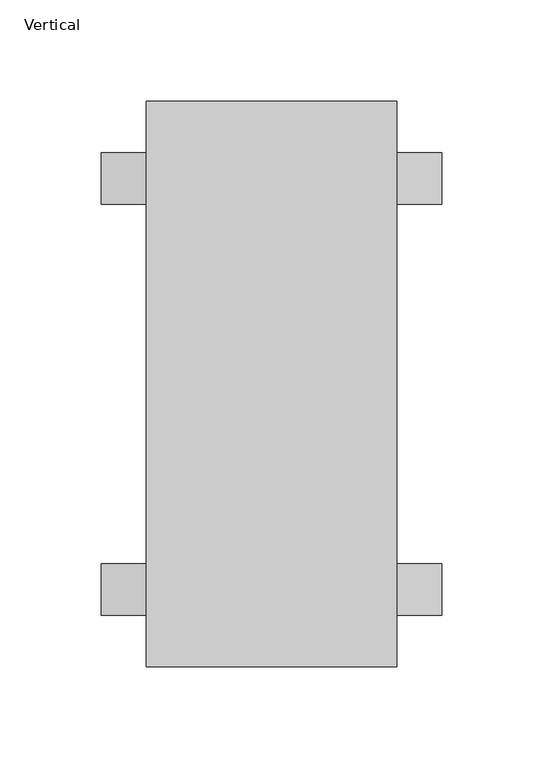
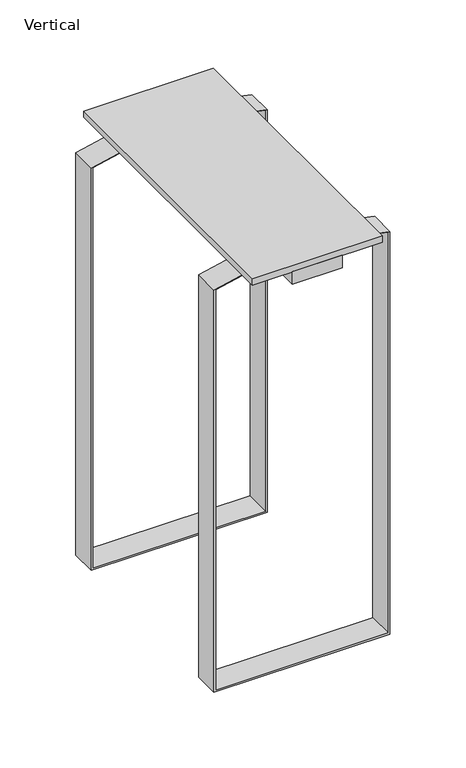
"""IFC4 building model written with IfcOpenShell, lengths in millimetres: furniture geometry, HermanMiller_ThrivePortfolio_Y7813_CPUHolder : Vertical."""

from ifc_helpers import new_model, si_unit, frame, origin, place, context, project, spatial, polyline, outline, extrude, source, transform, mapped, element, save


def vertical_a4187a12(model_context):
    return source(origin(), model_context, "Body", "SweptSolid", [
        extrude(outline(polyline([(23.8125, -139.7), (-23.8125, -139.7), (-23.8125, 139.7), (23.8125, 139.7), (23.8125, -139.7)])), frame((0.0, 0.0, 685.8), z_axis=(0.0, 0.0, 1.0), x_axis=(1.0, 0.0, 0.0)), (0.0, 0.0, 1.0), 12.7),
        extrude(outline(polyline([(61.9125, 139.7), (61.9125, -139.7), (-61.9125, -139.7), (-61.9125, 139.7), (61.9125, 139.7)])), frame((0.0, 0.0, 698.5), z_axis=(0.0, 0.0, 1.0), x_axis=(1.0, 0.0, 0.0)), (0.0, 0.0, 1.0), 6.35),
        extrude(outline(polyline([(279.4, -84.1375), (279.4, 84.1375), (685.8, 84.1375), (698.5, 25.4), (698.5, 23.8125), (685.8, 82.55), (280.9875, 82.55), (280.9875, -82.55), (685.8, -82.55), (698.5, -23.8125), (698.5, -25.4), (685.8, -84.1375), (279.4, -84.1375)])), frame((0.0, 88.9, 0.0), z_axis=(0.0, 1.0, 0.0), x_axis=(0.0, 0.0, 1.0)), (0.0, 0.0, 1.0), 25.4),
        extrude(outline(polyline([(280.9875, 82.55), (280.9875, -82.55), (685.8, -82.55), (698.5, -23.8125), (698.5, -25.4), (685.8, -84.1375), (279.4, -84.1375), (279.4, 84.1375), (685.8, 84.1375), (698.5, 25.4), (698.5, 23.8125), (685.8, 82.55), (280.9875, 82.55)])), frame((0.0, -114.3, 0.0), z_axis=(0.0, 1.0, 0.0), x_axis=(0.0, 0.0, 1.0)), (0.0, 0.0, 1.0), 25.4),
    ])


if __name__ == "__main__":
    model = new_model("IFC4")
    model_context = context("Model", 3, world=origin())
    ifc_project = project(units=[si_unit("LENGTHUNIT", "METRE", prefix="MILLI")], contexts=[model_context])
    site = spatial("IfcSite", under=ifc_project)
    building = spatial("IfcBuilding", under=site)
    placement = place(None, origin())
    vertical_shape = vertical_a4187a12(model_context)
    element("IfcFurniture", 1, ObjectType="HermanMiller_ThrivePortfolio_Y7813_CPUHolder : Vertical", at=placement, inside=building, context=model_context, shape_type="MappedRepresentation", body=[
        mapped(vertical_shape, transform((0.0, 0.0, 0.0), x_axis=(1.0, 0.0, 0.0), y_axis=(0.0, 1.0, 0.0), z_axis=(0.0, 0.0, 1.0))),
    ])
    save(model, "model.ifc")
